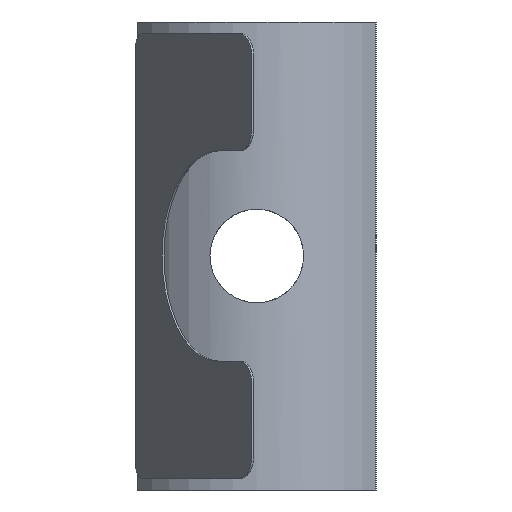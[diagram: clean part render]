
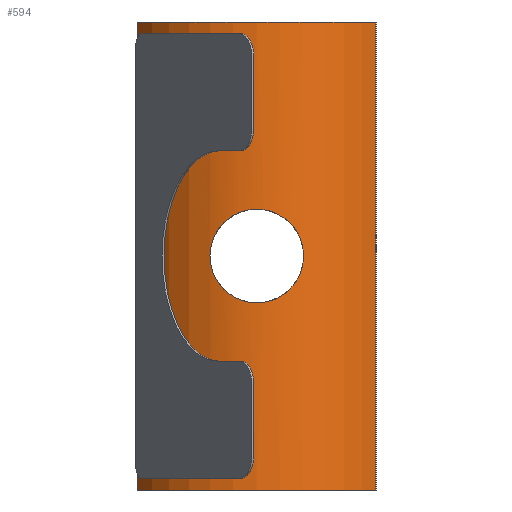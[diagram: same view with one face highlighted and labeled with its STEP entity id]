
A CAD part, front view. The second image highlights one B-rep face of the part: STEP entity #594.
In plain terms, the highlighted cylindrical face has radius 6.01 mm (diameter 12.02 mm), a partial arc.
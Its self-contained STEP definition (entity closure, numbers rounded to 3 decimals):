
#5 = ORIENTED_EDGE ( 'NONE', *, *, #1224, .T. ) ;
#11 = CARTESIAN_POINT ( 'NONE',  ( 9.084, -1.192, 20. ) ) ;
#21 = VERTEX_POINT ( 'NONE', #652 ) ;
#27 = CARTESIAN_POINT ( 'NONE',  ( 4., 2.013, 20. ) ) ;
#40 = CARTESIAN_POINT ( 'NONE',  ( 2.402, -3.783, 11.231 ) ) ;
#46 = CARTESIAN_POINT ( 'NONE',  ( 2.994, -3.913, 8.267 ) ) ;
#47 = CYLINDRICAL_SURFACE ( 'NONE', #900, 6.01 ) ;
#55 = CARTESIAN_POINT ( 'NONE',  ( 2.065, -3.677, 9.478 ) ) ;
#58 = CARTESIAN_POINT ( 'NONE',  ( 2.254, -3.738, 11.009 ) ) ;
#60 = CARTESIAN_POINT ( 'NONE',  ( 4.648, -3.963, 11.896 ) ) ;
#76 = CARTESIAN_POINT ( 'NONE',  ( 3.736, -3.992, 11.987 ) ) ;
#85 = ORIENTED_EDGE ( 'NONE', *, *, #326, .T. ) ;
#99 = CARTESIAN_POINT ( 'NONE',  ( 9.084, -1.192, 20. ) ) ;
#116 = CARTESIAN_POINT ( 'NONE',  ( 4.523, -3.975, 8.065 ) ) ;
#142 = CARTESIAN_POINT ( 'NONE',  ( 4.133, -3.997, 12. ) ) ;
#154 = EDGE_CURVE ( 'NONE', #222, #21, #1191, .T. ) ;
#163 = CARTESIAN_POINT ( 'NONE',  ( 5.005, -3.913, 11.734 ) ) ;
#173 = CARTESIAN_POINT ( 'NONE',  ( 6., -3.654, 9.869 ) ) ;
#190 = CARTESIAN_POINT ( 'NONE',  ( 5.589, -3.783, 8.779 ) ) ;
#195 = DIRECTION ( 'NONE',  ( 0., 0., -1. ) ) ;
#204 = DIRECTION ( 'NONE',  ( 0., 0., 1. ) ) ;
#220 = CARTESIAN_POINT ( 'NONE',  ( 5.506, -3.806, 8.677 ) ) ;
#222 = VERTEX_POINT ( 'NONE', #584 ) ;
#256 = CARTESIAN_POINT ( 'NONE',  ( 3.738, -3.997, 8. ) ) ;
#283 = CARTESIAN_POINT ( 'NONE',  ( 5.987, -3.659, 9.736 ) ) ;
#292 = CARTESIAN_POINT ( 'NONE',  ( 3.867, -3.997, 12. ) ) ;
#311 = CARTESIAN_POINT ( 'NONE',  ( -1.084, -1.192, 20. ) ) ;
#326 = EDGE_CURVE ( 'NONE', #1040, #609, #904, .T. ) ;
#329 = CIRCLE ( 'NONE', #883, 6.01 ) ;
#334 = ORIENTED_EDGE ( 'NONE', *, *, #546, .F. ) ;
#348 = DIRECTION ( 'NONE',  ( 1., 0., 0. ) ) ;
#356 = CARTESIAN_POINT ( 'NONE',  ( 5.323, -3.85, 11.505 ) ) ;
#359 = CARTESIAN_POINT ( 'NONE',  ( 4.264, -3.992, 11.987 ) ) ;
#361 = CARTESIAN_POINT ( 'NONE',  ( 2.678, -3.85, 8.494 ) ) ;
#369 = CARTESIAN_POINT ( 'NONE',  ( 2.401, -3.783, 8.771 ) ) ;
#375 = CARTESIAN_POINT ( 'NONE',  ( 2.065, -3.677, 10.521 ) ) ;
#387 = ORIENTED_EDGE ( 'NONE', *, *, #534, .T. ) ;
#426 = VECTOR ( 'NONE', #195, 1000. ) ;
#434 = B_SPLINE_CURVE_WITH_KNOTS ( 'NONE', 3,
 ( #1278, #256, #1293, #1168, #46, #1071, #361, #369, #781, #1089, #55, #1078, #456, #565, #772, #375, #478, #58, #40, #1074, #767, #471, #577, #684, #1113, #76, #292, #1011 ),
 .UNSPECIFIED., .F., .F.,
 ( 4, 2, 2, 2, 2, 2, 2, 2, 2, 2, 2, 2, 2, 4 ),
 ( 0.006, 0.007, 0.007, 0.008, 0.009, 0.009, 0.009, 0.01, 0.01, 0.011, 0.011, 0.012, 0.012, 0.013 ),
 .UNSPECIFIED. ) ;
#453 = VECTOR ( 'NONE', #204, 1000. ) ;
#456 = CARTESIAN_POINT ( 'NONE',  ( 2., -3.654, 9.868 ) ) ;
#457 = EDGE_LOOP ( 'NONE', ( #1332, #387, #334, #85 ) ) ;
#459 = CARTESIAN_POINT ( 'NONE',  ( 4.89, -3.932, 11.796 ) ) ;
#471 = CARTESIAN_POINT ( 'NONE',  ( 2.995, -3.913, 11.734 ) ) ;
#478 = CARTESIAN_POINT ( 'NONE',  ( 2.103, -3.69, 10.648 ) ) ;
#486 = CARTESIAN_POINT ( 'NONE',  ( 6., -3.654, 10.133 ) ) ;
#490 = CARTESIAN_POINT ( 'NONE',  ( 5.897, -3.69, 9.353 ) ) ;
#518 = CARTESIAN_POINT ( 'NONE',  ( 5.796, -3.722, 9.11 ) ) ;
#534 = EDGE_CURVE ( 'NONE', #1277, #619, #1326, .T. ) ;
#535 = DIRECTION ( 'NONE',  ( 0., 0., -1. ) ) ;
#546 = EDGE_CURVE ( 'NONE', #1040, #619, #601, .T. ) ;
#565 = CARTESIAN_POINT ( 'NONE',  ( 2., -3.654, 10.132 ) ) ;
#566 = CARTESIAN_POINT ( 'NONE',  ( 5.222, -3.872, 11.589 ) ) ;
#577 = CARTESIAN_POINT ( 'NONE',  ( 3.11, -3.932, 11.796 ) ) ;
#580 = CARTESIAN_POINT ( 'NONE',  ( 4., -3.997, 12. ) ) ;
#584 = CARTESIAN_POINT ( 'NONE',  ( 4., -3.997, 12. ) ) ;
#594 = ADVANCED_FACE ( 'NONE', ( #934, #870 ), #47, .T. ) ;
#599 = EDGE_CURVE ( 'NONE', #609, #1277, #329, .T. ) ;
#601 = CIRCLE ( 'NONE', #670, 6.01 ) ;
#609 = VERTEX_POINT ( 'NONE', #816 ) ;
#619 = VERTEX_POINT ( 'NONE', #99 ) ;
#652 = CARTESIAN_POINT ( 'NONE',  ( 4., -3.997, 8. ) ) ;
#664 = CARTESIAN_POINT ( 'NONE',  ( 5.987, -3.659, 10.263 ) ) ;
#670 = AXIS2_PLACEMENT_3D ( 'NONE', #27, #1047, #348 ) ;
#684 = CARTESIAN_POINT ( 'NONE',  ( 3.352, -3.963, 11.897 ) ) ;
#734 = CARTESIAN_POINT ( 'NONE',  ( 4.264, -3.992, 8.013 ) ) ;
#750 = CARTESIAN_POINT ( 'NONE',  ( 4.888, -3.932, 8.203 ) ) ;
#767 = CARTESIAN_POINT ( 'NONE',  ( 2.779, -3.872, 11.59 ) ) ;
#772 = CARTESIAN_POINT ( 'NONE',  ( 2.013, -3.659, 10.263 ) ) ;
#781 = CARTESIAN_POINT ( 'NONE',  ( 2.254, -3.739, 8.989 ) ) ;
#804 = CARTESIAN_POINT ( 'NONE',  ( 4., 2.013, 0. ) ) ;
#816 = CARTESIAN_POINT ( 'NONE',  ( -1.084, -1.192, 0. ) ) ;
#853 = CARTESIAN_POINT ( 'NONE',  ( 4.131, -3.997, 8. ) ) ;
#861 = DIRECTION ( 'NONE',  ( -1., 0., 0. ) ) ;
#870 = FACE_OUTER_BOUND ( 'NONE', #457, .T. ) ;
#883 = AXIS2_PLACEMENT_3D ( 'NONE', #804, #1322, #911 ) ;
#894 = CARTESIAN_POINT ( 'NONE',  ( 9.084, -1.192, 0. ) ) ;
#900 = AXIS2_PLACEMENT_3D ( 'NONE', #1151, #535, #861 ) ;
#903 = CARTESIAN_POINT ( 'NONE',  ( 5.322, -3.85, 8.493 ) ) ;
#904 = LINE ( 'NONE', #1209, #426 ) ;
#911 = DIRECTION ( 'NONE',  ( 1., 0., 0. ) ) ;
#934 = FACE_BOUND ( 'NONE', #1259, .T. ) ;
#947 = CARTESIAN_POINT ( 'NONE',  ( 5.222, -3.872, 8.411 ) ) ;
#965 = CARTESIAN_POINT ( 'NONE',  ( 4., -3.997, 8. ) ) ;
#979 = CARTESIAN_POINT ( 'NONE',  ( 4.521, -3.975, 11.935 ) ) ;
#1011 = CARTESIAN_POINT ( 'NONE',  ( 4., -3.997, 12. ) ) ;
#1040 = VERTEX_POINT ( 'NONE', #311 ) ;
#1047 = DIRECTION ( 'NONE',  ( 0., 0., 1. ) ) ;
#1070 = CARTESIAN_POINT ( 'NONE',  ( 5.746, -3.738, 11.009 ) ) ;
#1071 = CARTESIAN_POINT ( 'NONE',  ( 2.778, -3.872, 8.411 ) ) ;
#1073 = CARTESIAN_POINT ( 'NONE',  ( 5.006, -3.913, 8.266 ) ) ;
#1074 = CARTESIAN_POINT ( 'NONE',  ( 2.677, -3.85, 11.506 ) ) ;
#1077 = CARTESIAN_POINT ( 'NONE',  ( 5.598, -3.783, 11.23 ) ) ;
#1078 = CARTESIAN_POINT ( 'NONE',  ( 2.013, -3.659, 9.735 ) ) ;
#1089 = CARTESIAN_POINT ( 'NONE',  ( 2.103, -3.69, 9.353 ) ) ;
#1104 = ORIENTED_EDGE ( 'NONE', *, *, #154, .T. ) ;
#1105 = CARTESIAN_POINT ( 'NONE',  ( 5.935, -3.677, 9.479 ) ) ;
#1113 = CARTESIAN_POINT ( 'NONE',  ( 3.479, -3.975, 11.935 ) ) ;
#1141 = CARTESIAN_POINT ( 'NONE',  ( 4.648, -3.963, 8.103 ) ) ;
#1151 = CARTESIAN_POINT ( 'NONE',  ( 4., 2.013, 20. ) ) ;
#1168 = CARTESIAN_POINT ( 'NONE',  ( 3.111, -3.932, 8.204 ) ) ;
#1178 = CARTESIAN_POINT ( 'NONE',  ( 5.935, -3.677, 10.522 ) ) ;
#1191 = B_SPLINE_CURVE_WITH_KNOTS ( 'NONE', 3,
 ( #580, #142, #359, #979, #60, #459, #163, #566, #356, #1077, #1070, #1280, #1178, #664, #486, #173, #283, #1105, #490, #518, #1238, #190, #220, #903, #947, #1073, #750, #1141, #116, #734, #853, #965 ),
 .UNSPECIFIED., .F., .F.,
 ( 4, 2, 2, 2, 2, 2, 2, 2, 2, 2, 2, 2, 2, 2, 2, 4 ),
 ( 0., 0., 0.001, 0.001, 0.002, 0.002, 0.003, 0.003, 0.004, 0.004, 0.004, 0.005, 0.005, 0.006, 0.006, 0.006 ),
 .UNSPECIFIED. ) ;
#1209 = CARTESIAN_POINT ( 'NONE',  ( -1.084, -1.192, 20. ) ) ;
#1224 = EDGE_CURVE ( 'NONE', #21, #222, #434, .T. ) ;
#1238 = CARTESIAN_POINT ( 'NONE',  ( 5.734, -3.742, 8.995 ) ) ;
#1259 = EDGE_LOOP ( 'NONE', ( #1104, #5 ) ) ;
#1277 = VERTEX_POINT ( 'NONE', #894 ) ;
#1278 = CARTESIAN_POINT ( 'NONE',  ( 4., -3.997, 8. ) ) ;
#1280 = CARTESIAN_POINT ( 'NONE',  ( 5.896, -3.69, 10.649 ) ) ;
#1293 = CARTESIAN_POINT ( 'NONE',  ( 3.473, -3.978, 8.053 ) ) ;
#1322 = DIRECTION ( 'NONE',  ( 0., 0., 1. ) ) ;
#1326 = LINE ( 'NONE', #11, #453 ) ;
#1332 = ORIENTED_EDGE ( 'NONE', *, *, #599, .T. ) ;
